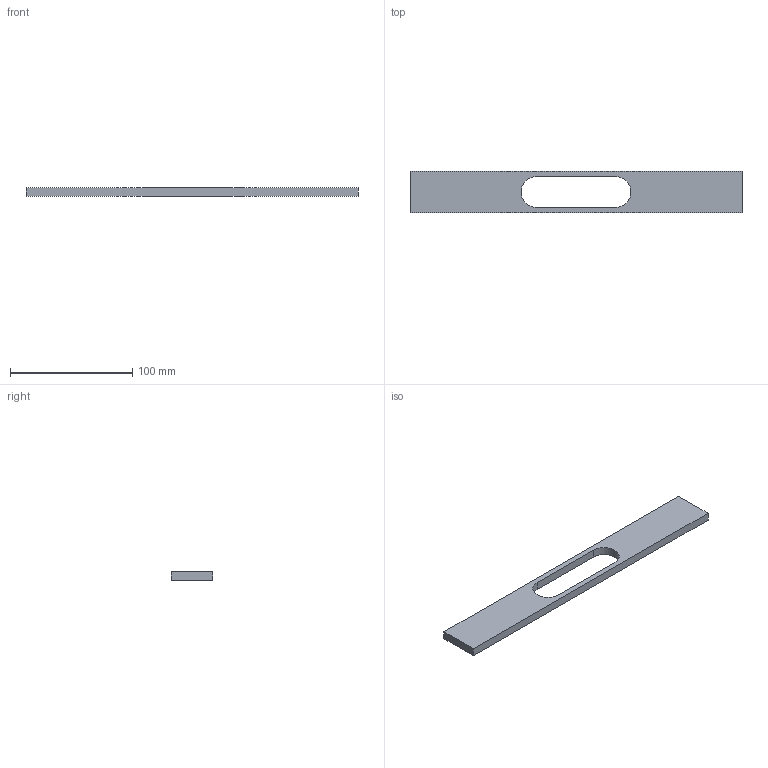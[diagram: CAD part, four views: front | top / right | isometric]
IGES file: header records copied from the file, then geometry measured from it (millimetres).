
Start section: Data from Parasolid IGES Translator 15.0.47, Copyright(c) 2006 Siemens P LM Software. All Rights Reserved.
Global section: file name: 9112674.igs; native system:  By UGS Corp.; preprocessor: XPlus GENERIC/IGES 3.0; author: Noname; organization: Noname; date: 20160311.190201; units: millimetre
Bounding box: 272 x 34 x 7 mm (x, y, z)
Surface area: 20410.2 mm2 (no closed solid volume)
Topology: 0 solids, 0 shells, 19 faces, 78 edges, 72 vertices
Faces by surface type: extrusion 12, revolution 7
